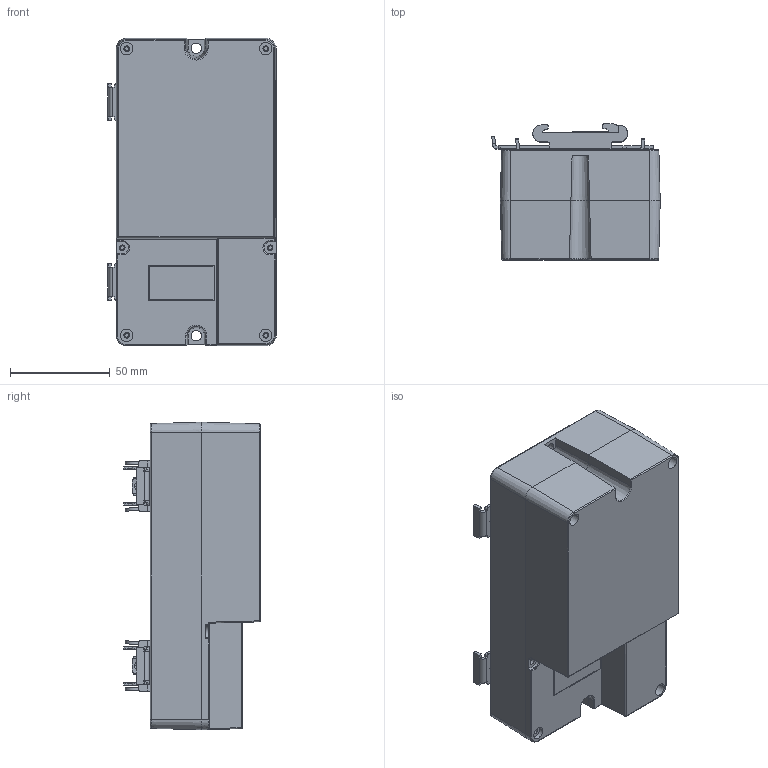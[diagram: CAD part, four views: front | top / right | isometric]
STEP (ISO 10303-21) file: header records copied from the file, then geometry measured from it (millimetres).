
FILE_DESCRIPTION((''),'2;1');
FILE_NAME('0000ALL-DYX_ASM','2021-02-02T',('Administrator'),(''),'PRO/ENGINEER BY PARAMETRIC TECHNOLOGY CORPORATION, 2002180','PRO/ENGINEER BY PARAMETRIC TECHNOLOGY CORPORATION, 2002180','');
FILE_SCHEMA(('AUTOMOTIVE_DESIGN { 1 2 10303 214 0 1 1 1 }'));
Length unit declared in the file: millimetre
Products named in the file (7): TYX; DYX; DYX1; WJ; WJ1; ASM000WUJIN_ASM; 0000ALL-DYX_ASM
Assembly tree (7 placements, depth 3):
  0000ALL-DYX_ASM
    TYX
    DYX
    DYX1
    ASM000WUJIN_ASM  x2
      WJ
      WJ1
Bounding box: 84.22 x 68.1 x 153.8 mm (x, y, z)
Volume: 368184.3 mm3; surface area: 144563.3 mm2
Topology: 7 solids, 7 shells, 918 faces, 2527 edges, 1640 vertices
Faces by surface type: plane 503, cylinder 292, cone 62, sphere 23, torus 20, bspline 18
Entity records: 25984 total; most frequent: CARTESIAN_POINT 5606, ORIENTED_EDGE 3500, DIRECTION 3291, EDGE_CURVE 1750, PRESENTATION_STYLE_ASSIGNMENT 1225, STYLED_ITEM 1225, CURVE_STYLE 1222, VERTEX_POINT 1136
